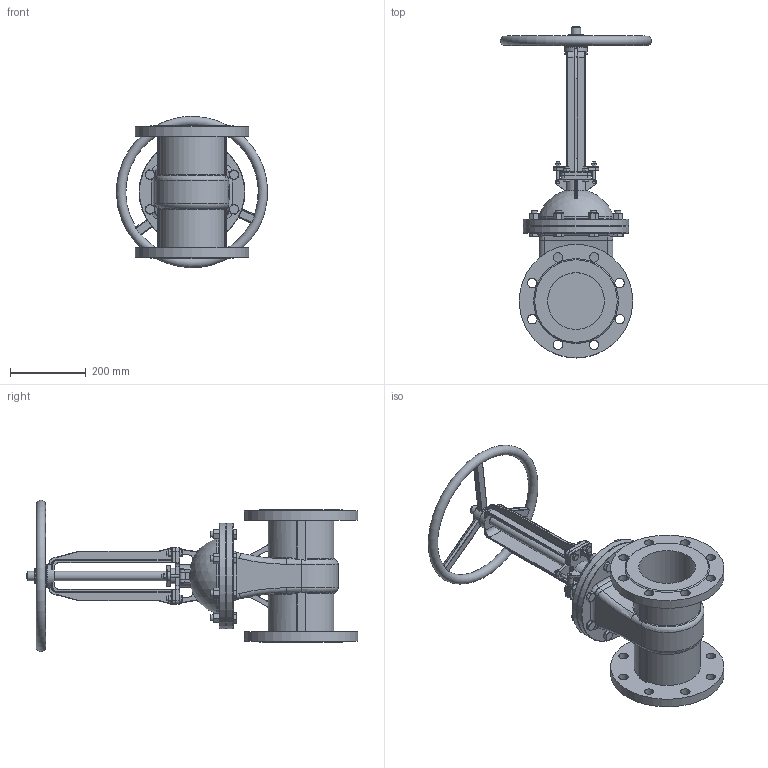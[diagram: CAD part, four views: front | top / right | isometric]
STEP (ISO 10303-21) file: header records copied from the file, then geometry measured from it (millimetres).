
FILE_DESCRIPTION(('STEP AP242'), '1');
FILE_NAME('GVWR3131M-2W-F-S Çàäâèæêà êëèíîâàÿ ñ âûäâèæíûì øòîêîì DN.ru Äó150 Ðó25', '2026-05-31T09:24:51', ('R2D2'), (''), 'C3D Converter', 'C3D Toolkit', '');
FILE_SCHEMA(('AP242_MANAGED_MODEL_BASED_3D_ENGINEERING_MIM_LF { 1 0 10303 442 1 1 4 }'));
Length unit declared in the file: millimetre
Products named in the file (1): GVWR3131M-2W-F-S
Bounding box: 399.59 x 877.5 x 399.67 mm (x, y, z)
Surface area: 1200014.9 mm2 (no closed solid volume)
Topology: 0 solids, 1 shells, 1331 faces, 3293 edges, 2021 vertices
Faces by surface type: plane 538, cone 261, cylinder 238, extrusion 108, bspline 107, torus 74, sphere 5
Full cylindrical faces by diameter (mm): 7 x4, 8 x4, 10 x8, 15 x2, 16 x20, 24 x4, 25 x18, 30 x1, 40 x3, 50 x1, 60 x1, 150 x2, 200 x2, 280 x2, 300 x2
Entity records: 75918 total; most frequent: CARTESIAN_POINT 35941, ORIENTED_EDGE 6348, DIRECTION 5294, EDGE_CURVE 3175, VERTEX_POINT 2016, AXIS2_PLACEMENT_3D 2012, EDGE_LOOP 1579, FACE_BOUND 1438
